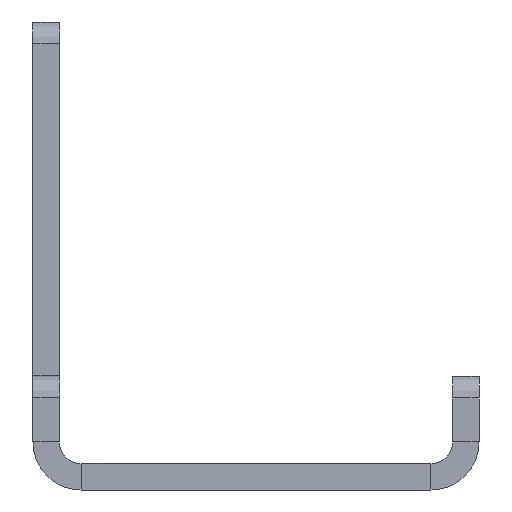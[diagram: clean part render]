
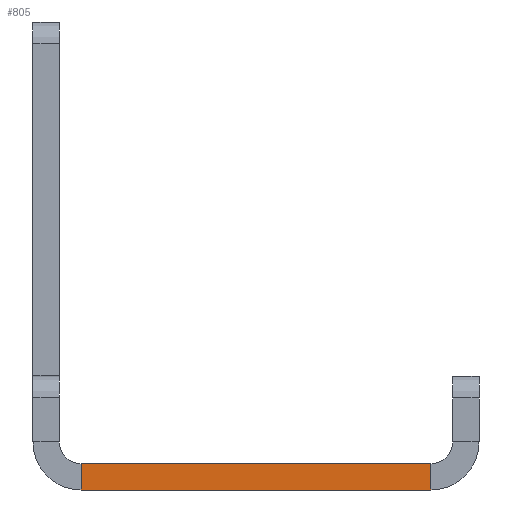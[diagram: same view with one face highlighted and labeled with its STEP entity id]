
A CAD part, left-side view. The second image highlights one B-rep face of the part: STEP entity #805.
In plain terms, the highlighted planar face has unit normal (-1, 0, 0).
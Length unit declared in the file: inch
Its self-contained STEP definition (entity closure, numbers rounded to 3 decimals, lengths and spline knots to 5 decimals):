
#43 = CARTESIAN_POINT ( 'NONE',  ( -23.9375, 0., 0.072 ) ) ;
#114 = DIRECTION ( 'NONE',  ( 0., 1., 0. ) ) ;
#120 = DIRECTION ( 'NONE',  ( 0., 1., 0. ) ) ;
#127 = CARTESIAN_POINT ( 'NONE',  ( -23.9375, 0., 0. ) ) ;
#215 = CARTESIAN_POINT ( 'NONE',  ( -23.9375, 0.132, 0. ) ) ;
#358 = DIRECTION ( 'NONE',  ( 0., 0., 1. ) ) ;
#361 = DIRECTION ( 'NONE',  ( 0., 0., -1. ) ) ;
#362 = CARTESIAN_POINT ( 'NONE',  ( -23.9375, 1.0924, 0.072 ) ) ;
#374 = PLANE ( 'NONE',  #1183 ) ;
#375 = CARTESIAN_POINT ( 'NONE',  ( -23.9375, 0.072, 0.132 ) ) ;
#494 = VECTOR ( 'NONE', #361, 39.37008 ) ;
#525 = LINE ( 'NONE', #362, #494 ) ;
#542 = VECTOR ( 'NONE', #120, 39.37008 ) ;
#546 = VECTOR ( 'NONE', #358, 39.37008 ) ;
#547 = LINE ( 'NONE', #127, #542 ) ;
#559 = LINE ( 'NONE', #215, #546 ) ;
#607 = VERTEX_POINT ( 'NONE', #652 ) ;
#629 = VERTEX_POINT ( 'NONE', #658 ) ;
#636 = VERTEX_POINT ( 'NONE', #741 ) ;
#646 = VERTEX_POINT ( 'NONE', #768 ) ;
#652 = CARTESIAN_POINT ( 'NONE',  ( -23.9375, 1.0924, 0. ) ) ;
#658 = CARTESIAN_POINT ( 'NONE',  ( -23.9375, 0.132, 0.072 ) ) ;
#741 = CARTESIAN_POINT ( 'NONE',  ( -23.9375, 1.0924, 0.072 ) ) ;
#768 = CARTESIAN_POINT ( 'NONE',  ( -23.9375, 0.132, 0. ) ) ;
#774 = DIRECTION ( 'NONE',  ( 0., 0., 1. ) ) ;
#776 = DIRECTION ( 'NONE',  ( -1., 0., 0. ) ) ;
#805 = ADVANCED_FACE ( 'NONE', ( #945 ), #374, .T. ) ;
#945 = FACE_OUTER_BOUND ( 'NONE', #996, .T. ) ;
#996 = EDGE_LOOP ( 'NONE', ( #1518, #1454, #1509, #1492 ) ) ;
#1020 = EDGE_CURVE ( 'NONE', #646, #629, #559, .T. ) ;
#1035 = EDGE_CURVE ( 'NONE', #636, #607, #525, .T. ) ;
#1157 = EDGE_CURVE ( 'NONE', #646, #607, #547, .T. ) ;
#1183 = AXIS2_PLACEMENT_3D ( 'NONE', #375, #776, #774 ) ;
#1211 = EDGE_CURVE ( 'NONE', #629, #636, #1348, .T. ) ;
#1298 = VECTOR ( 'NONE', #114, 39.37008 ) ;
#1348 = LINE ( 'NONE', #43, #1298 ) ;
#1454 = ORIENTED_EDGE ( 'NONE', *, *, #1020, .T. ) ;
#1492 = ORIENTED_EDGE ( 'NONE', *, *, #1035, .T. ) ;
#1509 = ORIENTED_EDGE ( 'NONE', *, *, #1211, .T. ) ;
#1518 = ORIENTED_EDGE ( 'NONE', *, *, #1157, .F. ) ;
